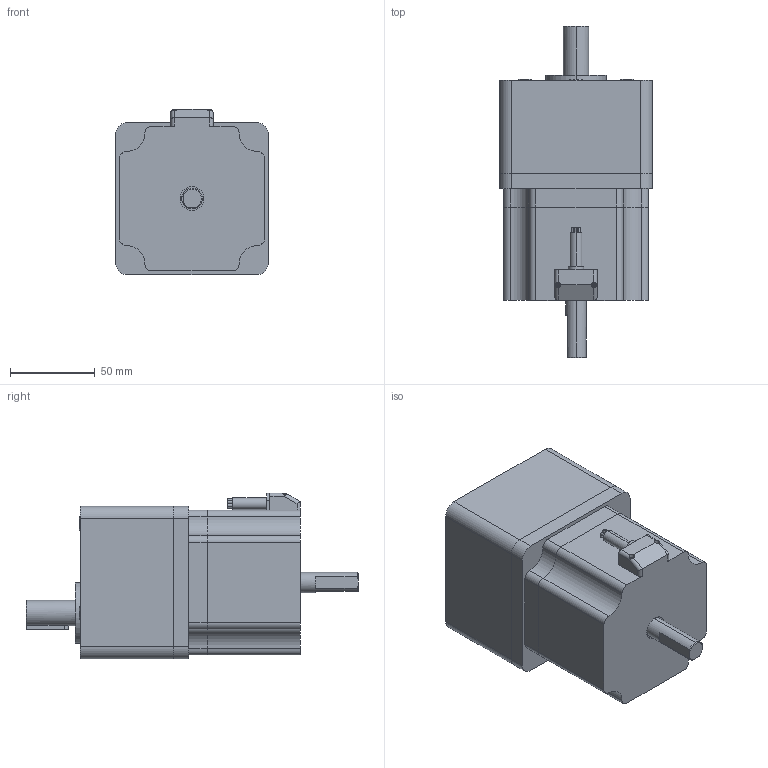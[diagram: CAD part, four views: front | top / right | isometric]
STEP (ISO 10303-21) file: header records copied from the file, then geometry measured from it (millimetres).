
FILE_DESCRIPTION (( 'STEP AP203' ), '1' );
FILE_NAME ('S90D偏心减速步进电机.STEP', '2019-11-23T07:41:53', ( 'China' ), ( 'Home' ), 'SwSTEP 2.0', 'SolidWorks 2016', '' );
FILE_SCHEMA (( 'CONFIG_CONTROL_DESIGN' ));
Length unit declared in the file: millimetre
Products named in the file (1): S90Dぇ陑熬厒祭輛萇儂
Bounding box: 90 x 196 x 97.75 mm (x, y, z)
Volume: 958750.1 mm3; surface area: 95390.1 mm2
Topology: 11 solids, 11 shells, 263 faces, 646 edges, 416 vertices
Faces by surface type: plane 142, cylinder 91, cone 16, torus 14
Entity records: 7896 total; most frequent: CARTESIAN_POINT 1554, DIRECTION 1331, ORIENTED_EDGE 1276, EDGE_CURVE 638, AXIS2_PLACEMENT_3D 477, VERTEX_POINT 416, LINE 377, VECTOR 377
